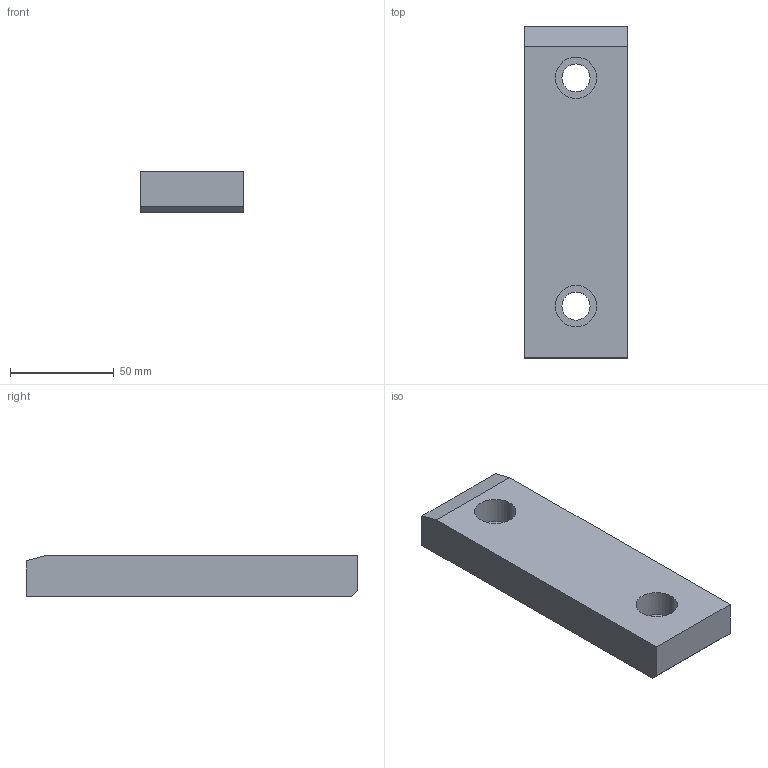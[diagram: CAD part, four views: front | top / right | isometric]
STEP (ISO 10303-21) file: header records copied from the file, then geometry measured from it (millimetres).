
FILE_DESCRIPTION (( 'STEP AP214' ), '1' );
FILE_NAME ('SW225-01-50x160.STEP', '2020-10-21T09:54:50', ( 'August' ), ( '' ), 'SwSTEP 2.0', 'SolidWorks 2018', '' );
FILE_SCHEMA (( 'AUTOMOTIVE_DESIGN' ));
Length unit declared in the file: millimetre
Products named in the file (1): SW225-01-50x160
Bounding box: 50 x 160 x 20 mm (x, y, z)
Volume: 148933 mm3; surface area: 25814.8 mm2
Topology: 1 solids, 1 shells, 18 faces, 42 edges, 28 vertices
Faces by surface type: plane 10, cylinder 8
Entity records: 564 total; most frequent: DIRECTION 96, CARTESIAN_POINT 89, ORIENTED_EDGE 84, EDGE_CURVE 42, AXIS2_PLACEMENT_3D 35, VERTEX_POINT 28, LINE 26, VECTOR 26
